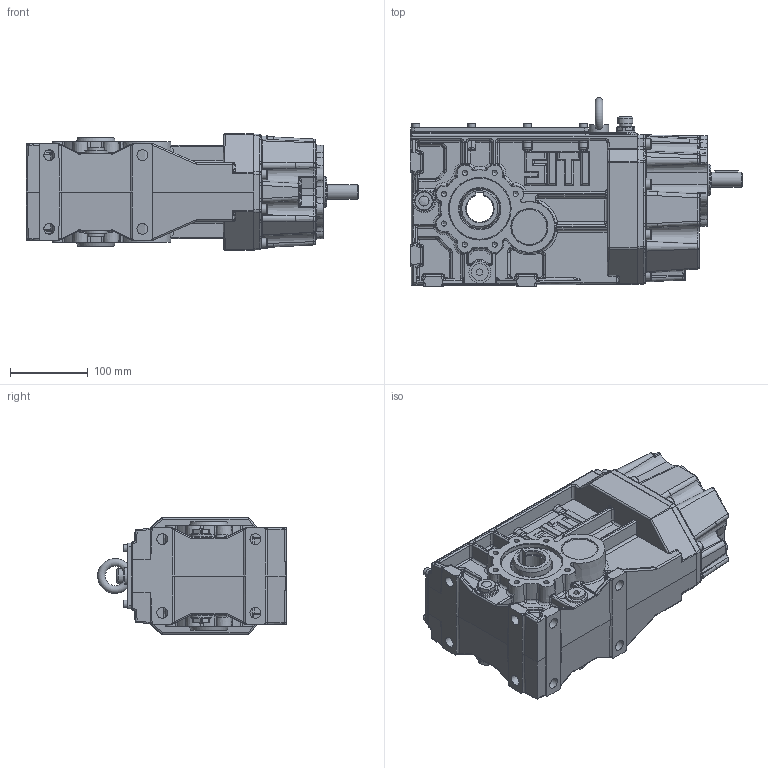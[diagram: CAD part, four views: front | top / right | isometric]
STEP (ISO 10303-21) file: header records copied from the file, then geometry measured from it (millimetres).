
FILE_DESCRIPTION((''),'2;1');
FILE_NAME('O:\Figurini\Figurini BH\3D\BH 63 C.stp','2013-04-17T11:05:12',('d.iannaccio'),(''),'Autodesk Inventor 2012','Autodesk Inventor 2012','');
FILE_SCHEMA(('AUTOMOTIVE_DESIGN { 1 0 10303 214 1 1 1 1 }'));
Length unit declared in the file: millimetre
Products named in the file (1): BH_63 C
Bounding box: 428 x 243.48 x 150 mm (x, y, z)
Volume: 3071273.2 mm3; surface area: 771596.2 mm2
Topology: 3 solids, 44 shells, 3350 faces, 7972 edges, 4709 vertices
Faces by surface type: cylinder 1055, plane 944, bspline 666, torus 290, cone 267, sphere 128
Full cylindrical faces by diameter (mm): 4.2 x1, 4.917 x8, 5 x1, 5.3 x1, 6 x16, 6.647 x30, 7 x8, 8 x22, 8.376 x1, 8.5 x2, 9 x8, 10 x17, 11 x1, 11.445 x1, 13 x8, 14 x8, 14.95 x5, 16 x1, 18 x1, 19 x1, 19.5 x1, 25 x1, 28 x6, 37.5 x2, 39.592 x1, 39.6 x1, 39.992 x3, 40 x4, 43.75 x1, 43.875 x2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
Entity records: 116952 total; most frequent: CARTESIAN_POINT 41773, DIRECTION 14728, ORIENTED_EDGE 14640, EDGE_CURVE 7320, AXIS2_PLACEMENT_3D 6065, VERTEX_POINT 4549, EDGE_LOOP 3916, STYLED_ITEM 3351
